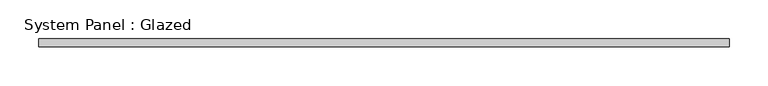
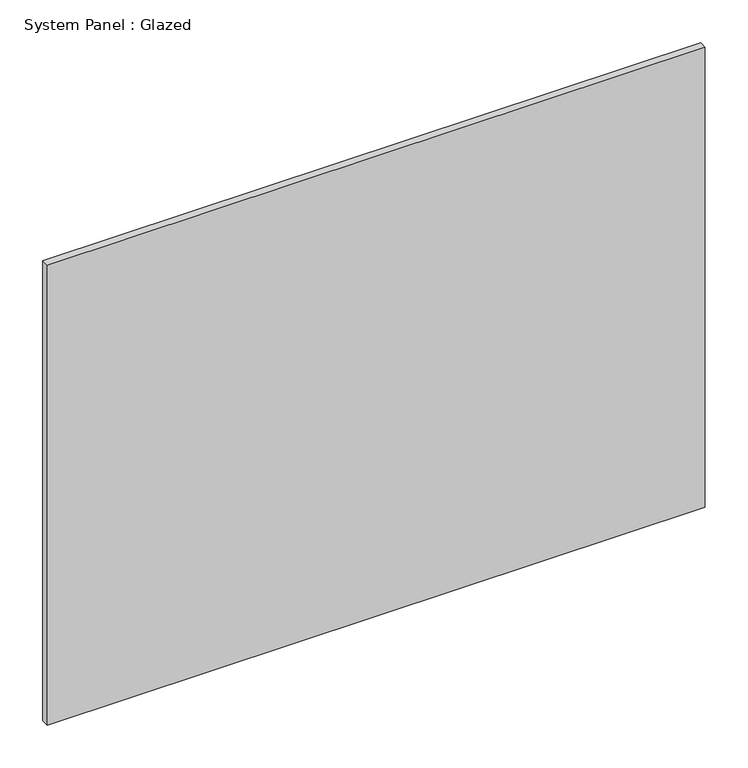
"""IFC4 building model written with IfcOpenShell, lengths in millimetres: plate geometry, System Panel : Glazed."""

from ifc_helpers import new_model, si_unit, origin, origin_with_axes, place, context, project, spatial, polyline, outline, extrude, source, transform, mapped, element, save


def system_panel_glazed_b10717da(model_context):
    return source(origin(), model_context, "Body", "SweptSolid", [
        extrude(outline(polyline([(443.1556079, -5.0), (-443.1556079, -5.0), (-443.1556079, 5.0), (443.1556079, 5.0), (443.1556079, -5.0)])), origin_with_axes(), (0.0, 0.0, 1.0), 655.0),
    ])


if __name__ == "__main__":
    model = new_model("IFC4")
    model_context = context("Model", 3, world=origin())
    ifc_project = project(units=[si_unit("LENGTHUNIT", "METRE", prefix="MILLI")], contexts=[model_context])
    site = spatial("IfcSite", under=ifc_project)
    building = spatial("IfcBuilding", under=site)
    placement = place(None, origin())
    system_panel_glazed_shape = system_panel_glazed_b10717da(model_context)
    element("IfcPlate", 1, ObjectType="System Panel : Glazed", at=placement, inside=building, context=model_context, shape_type="MappedRepresentation", body=[
        mapped(system_panel_glazed_shape, transform((0.0, 0.0, 0.0), x_axis=(1.0, 0.0, 0.0), y_axis=(0.0, 1.0, 0.0), z_axis=(0.0, 0.0, 1.0))),
    ])
    save(model, "model.ifc")
